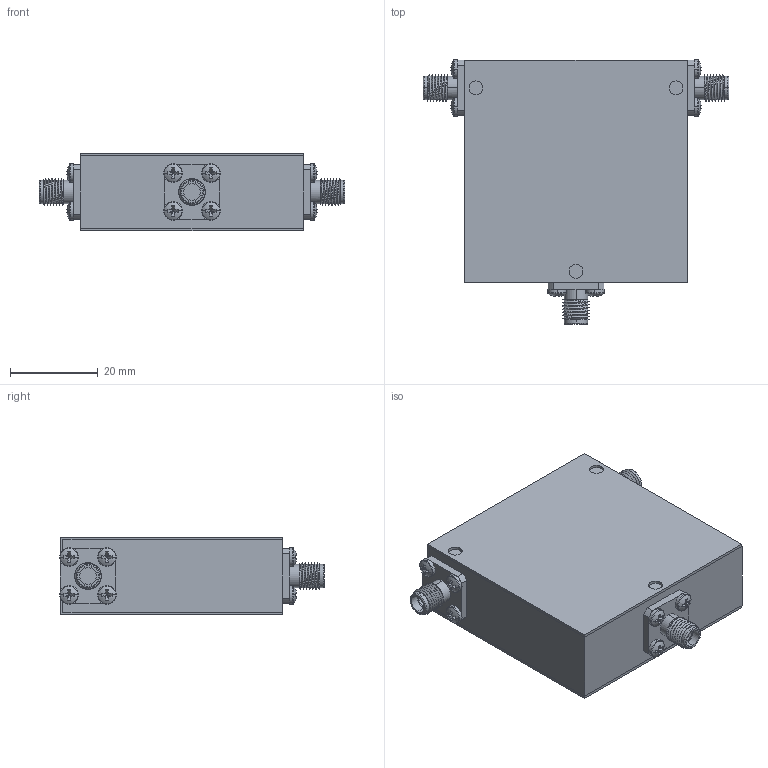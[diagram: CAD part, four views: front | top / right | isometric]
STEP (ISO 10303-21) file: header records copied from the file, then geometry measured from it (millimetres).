
FILE_DESCRIPTION (( 'STEP AP214' ), '1' );
FILE_NAME ('D3C1727 2.0x2.0x0.7 FFF.step', '2021-12-01T20:55:27', ( '' ), ( '' ), 'SwSTEP 2.0', 'SolidWorks 2016', '' );
FILE_SCHEMA (( 'AUTOMOTIVE_DESIGN' ));
Length unit declared in the file: inch
Products named in the file (5): D3I1727 2.0x2.0x0.7; D3C1727 2.0x2.0x0.7 FFF; Delta SMA-Female 0.500 flange Threaded; D3I1727 2.0x1.975x0.65; pan cross head_ai_CR-PHMS 0.086-56x0.125x0.125-N
Assembly tree (17 placements, depth 2):
  D3C1727 2.0x2.0x0.7 FFF
    D3I1727 2.0x1.975x0.65
    D3I1727 2.0x2.0x0.7
    pan cross head_ai_CR-PHMS 0.086-56x0.125x0.125-N  x12
    Delta SMA-Female 0.500 flange Threaded  x3
Bounding box: 69.85 x 60.41 x 17.78 mm (x, y, z)
Volume: 47062.1 mm3; surface area: 23456.4 mm2
Topology: 17 solids, 17 shells, 421 faces, 957 edges, 591 vertices
Faces by surface type: plane 232, cylinder 126, torus 30, sphere 24, bspline 9
Entity records: 3729 total; most frequent: CARTESIAN_POINT 1205, DIRECTION 527, ORIENTED_EDGE 434, EDGE_CURVE 217, AXIS2_PLACEMENT_3D 211, VERTEX_POINT 139, EDGE_LOOP 116, LINE 105
